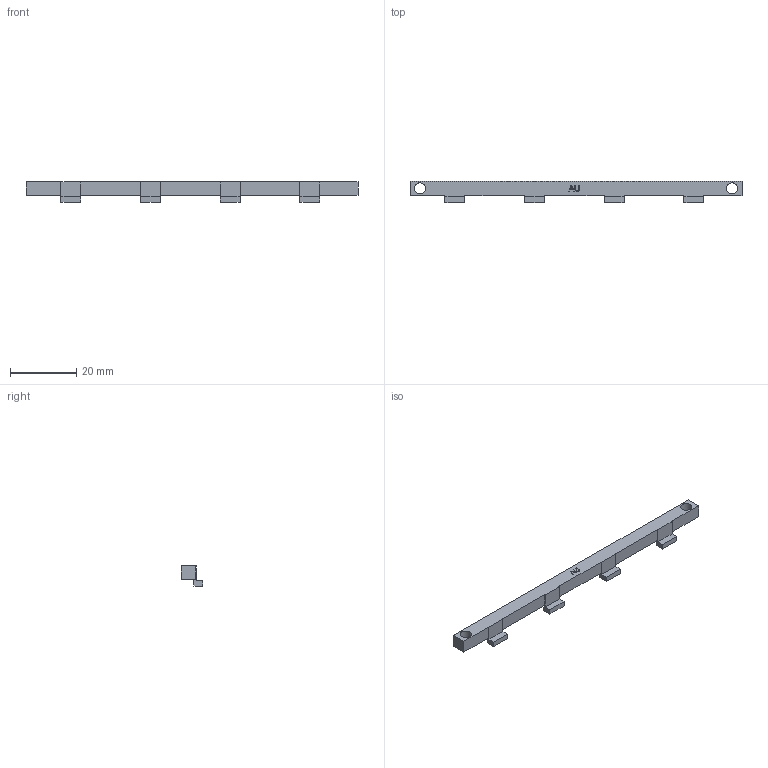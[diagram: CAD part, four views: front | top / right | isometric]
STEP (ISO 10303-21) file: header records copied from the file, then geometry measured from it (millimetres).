
FILE_DESCRIPTION(('Open CASCADE Model'),'2;1');
FILE_NAME('Open CASCADE Shape Model','2026-10-07T10:51:43',('Author'),( 'Open CASCADE'),'Open CASCADE STEP processor 7.8','Open CASCADE 7.8' ,'Unknown');
FILE_SCHEMA(('AUTOMOTIVE_DESIGN { 1 0 10303 214 1 1 1 1 }'));
Length unit declared in the file: millimetre
Products named in the file (1): Open CASCADE STEP translator 7.8 4
Bounding box: 100 x 6.6 x 6.1 mm (x, y, z)
Volume: 1817.5 mm3; surface area: 2024.9 mm2
Topology: 1 solids, 1 shells, 68 faces, 189 edges, 126 vertices
Faces by surface type: plane 58, extrusion 8, cylinder 2
Full cylindrical faces by diameter (mm): 3.4 x2
Entity records: 4724 total; most frequent: CARTESIAN_POINT 1086, DIRECTION 595, VECTOR 461, LINE 453, ORIENTED_EDGE 378, PCURVE 378, DEFINITIONAL_REPRESENTATION 378, EDGE_CURVE 189
